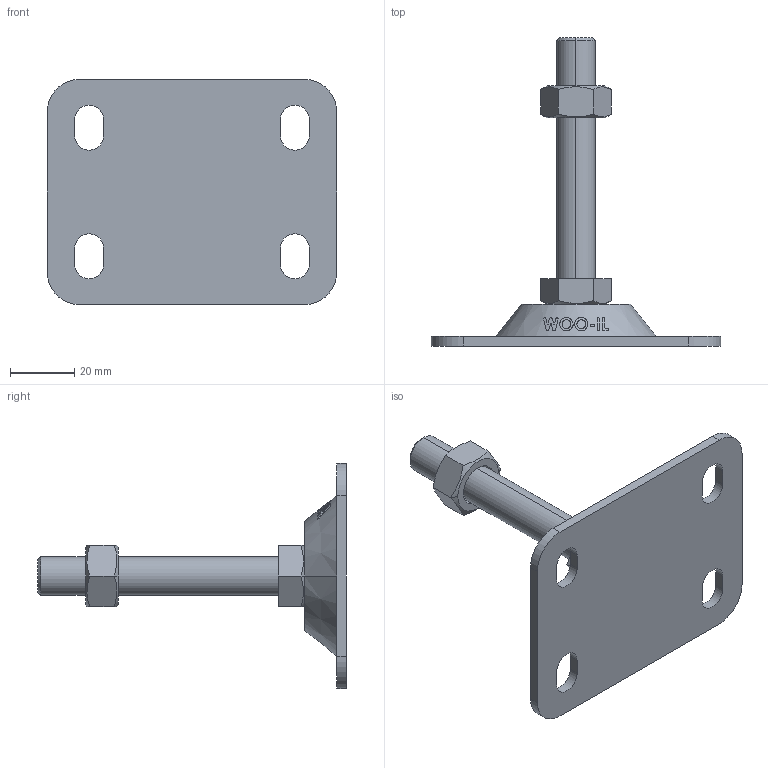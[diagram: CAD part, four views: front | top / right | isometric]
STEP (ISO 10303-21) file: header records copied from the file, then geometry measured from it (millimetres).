
FILE_DESCRIPTION (( 'STEP AP214' ), '1' );
FILE_NAME ('FABL7090-M12-75.step', '2021-03-28T23:51:24', ( '' ), ( '' ), 'SwSTEP 2.0', 'SolidWorks 2019', '' );
FILE_SCHEMA (( 'AUTOMOTIVE_DESIGN' ));
Length unit declared in the file: millimetre
Products named in the file (2): FABL7090-M12-75
Bounding box: 90 x 96 x 70 mm (x, y, z)
Volume: 44216.4 mm3; surface area: 18425.1 mm2
Topology: 2 solids, 2 shells, 142 faces, 369 edges, 242 vertices
Faces by surface type: plane 58, cylinder 44, cone 22, bspline 18
Entity records: 5925 total; most frequent: CARTESIAN_POINT 2627, ORIENTED_EDGE 738, DIRECTION 553, EDGE_CURVE 369, VERTEX_POINT 242, AXIS2_PLACEMENT_3D 198, EDGE_LOOP 163, VECTOR 157
